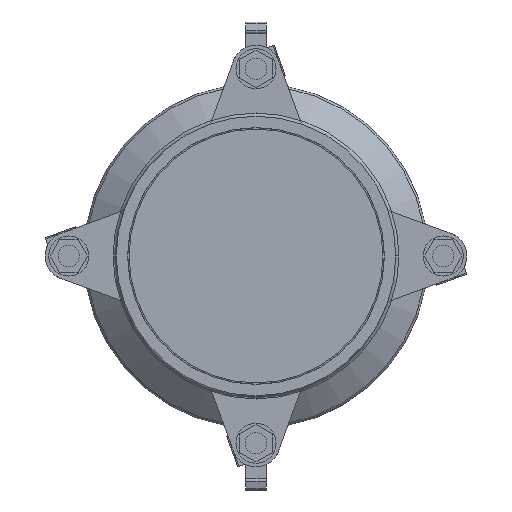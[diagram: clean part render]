
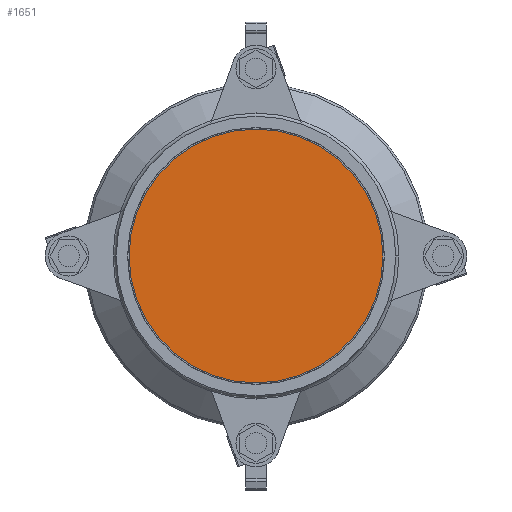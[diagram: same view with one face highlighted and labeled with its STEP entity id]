
A CAD part, left-side view. The second image highlights one B-rep face of the part: STEP entity #1651.
In plain terms, the highlighted planar face has unit normal (-1, 0, 0).
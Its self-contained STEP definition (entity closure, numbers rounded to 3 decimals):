
#1651=ADVANCED_FACE('',(#3013),#3014,.T.);
#3013=FACE_OUTER_BOUND('',#4410,.T.);
#3014=PLANE('',#4411);
#4410=EDGE_LOOP('',(#7518,#7519));
#4411=AXIS2_PLACEMENT_3D('',#7520,#7521,#7522);
#7518=ORIENTED_EDGE('',*,*,#8511,.T.);
#7519=ORIENTED_EDGE('',*,*,#8588,.T.);
#7520=CARTESIAN_POINT('',(-87.5,0.0,0.0));
#7521=DIRECTION('',(-1.0,0.0,0.));
#7522=DIRECTION('',(0.,0.0,1.0));
#8511=EDGE_CURVE('',#10243,#10248,#10250,.T.);
#8588=EDGE_CURVE('',#10248,#10243,#10337,.T.);
#10243=VERTEX_POINT('',#12476);
#10248=VERTEX_POINT('',#12482);
#10250=CIRCLE('',#12485,105.0);
#10337=CIRCLE('',#12598,105.0);
#12476=CARTESIAN_POINT('',(-87.5,0.0,-105.0));
#12482=CARTESIAN_POINT('',(-87.5,0.,105.0));
#12485=AXIS2_PLACEMENT_3D('',#13986,#13987,#13988);
#12598=AXIS2_PLACEMENT_3D('',#14063,#14064,#14065);
#13986=CARTESIAN_POINT('',(-87.5,0.0,0.0));
#13987=DIRECTION('',(-1.0,0.0,0.));
#13988=DIRECTION('',(0.,0.0,-1.0));
#14063=CARTESIAN_POINT('',(-87.5,0.0,0.0));
#14064=DIRECTION('',(-1.0,0.0,0.));
#14065=DIRECTION('',(0.,0.0,-1.0));
